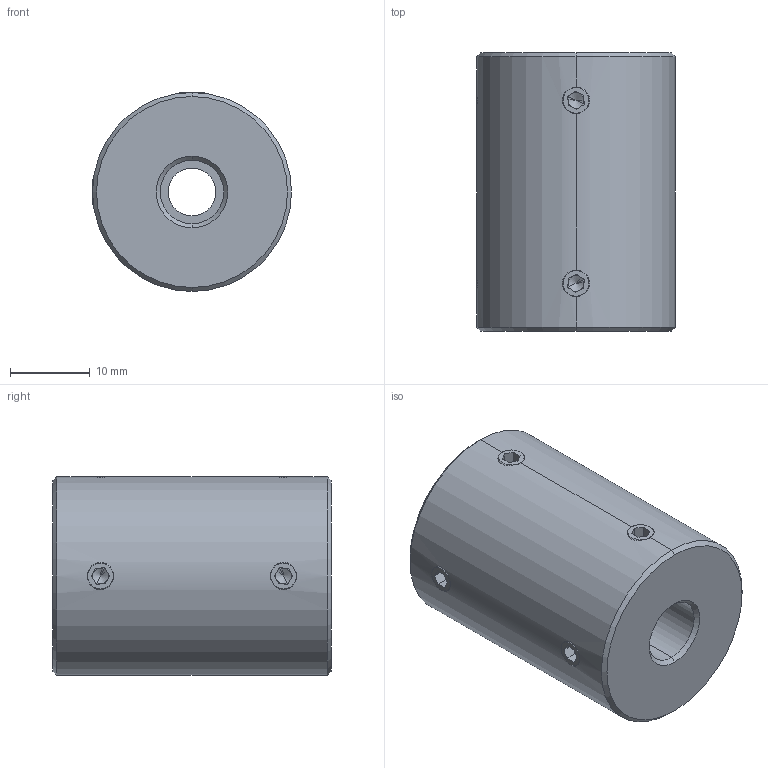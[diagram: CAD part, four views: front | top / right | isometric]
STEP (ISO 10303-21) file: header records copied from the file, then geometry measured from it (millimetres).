
FILE_DESCRIPTION (( 'STEP AP214' ), '1' );
FILE_NAME ('LL-D-D25L35-6-8½¨Ä£.STEP', '2022-07-23T00:36:19', ( '' ), ( '' ), 'SwSTEP 2.0', 'SolidWorks 2022', '' );
FILE_SCHEMA (( 'AUTOMOTIVE_DESIGN' ));
Length unit declared in the file: millimetre
Products named in the file (1): LL-D-D25L35-6-8膘耀
Bounding box: 25 x 35 x 25 mm (x, y, z)
Volume: 15581.1 mm3; surface area: 4667.2 mm2
Topology: 1 solids, 1 shells, 113 faces, 286 edges, 176 vertices
Faces by surface type: plane 59, cone 32, cylinder 22
Entity records: 3716 total; most frequent: CARTESIAN_POINT 1006, DIRECTION 558, ORIENTED_EDGE 556, EDGE_CURVE 278, AXIS2_PLACEMENT_3D 206, VERTEX_POINT 176, VECTOR 146, LINE 146
